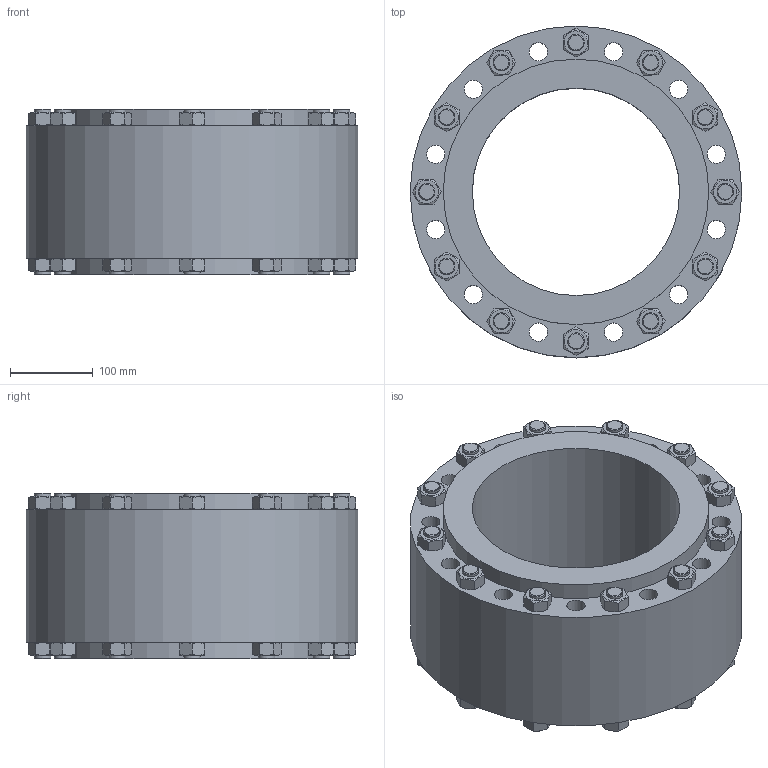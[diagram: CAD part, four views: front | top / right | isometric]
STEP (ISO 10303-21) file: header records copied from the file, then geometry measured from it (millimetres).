
FILE_DESCRIPTION(/* description */ ('ACI TYPE 620 DN250 PN10'),/* implementation_level */ '2;1');
FILE_NAME(/* name */ 'C:\Users\willms\Desktop\ACI-620-250-10.stp',/* time_stamp */ '2020-03-19T10:35:41+01:00',/* author */ ('götz'),/* organization */ ('ACI Industriearmaturen GmbH www.aci24.com info@aci24.com'),/* preprocessor_version */ 'ST-DEVELOPER v16.1',/* originating_system */ 'Autodesk Inventor 2016',/* authorisation */ 'ACI Industriearmaturen GmbH www.aci24.com info@aci24.com');
FILE_SCHEMA (('CONFIG_CONTROL_DESIGN'));
Length unit declared in the file: centimetre
Products named in the file (1): ACI-620-250-10
Bounding box: 400 x 400 x 200 mm (x, y, z)
Volume: 13100327.5 mm3; surface area: 723806.8 mm2
Topology: 1 solids, 25 shells, 404 faces, 913 edges, 585 vertices
Faces by surface type: plane 220, cone 120, cylinder 64
Full cylindrical faces by diameter (mm): 20 x48, 22 x12, 250 x1, 320 x2, 400 x1
Entity records: 10066 total; most frequent: CARTESIAN_POINT 2197, DIRECTION 1450, ORIENTED_EDGE 1360, EDGE_LOOP 688, EDGE_CURVE 680, AXIS2_PLACEMENT_3D 653, VERTEX_POINT 536, FACE_OUTER_BOUND 404
